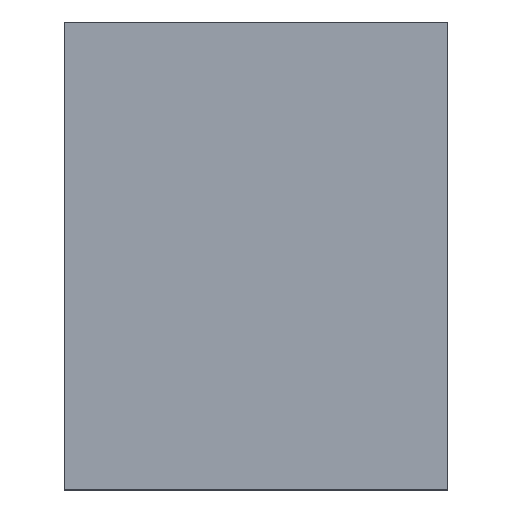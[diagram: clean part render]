
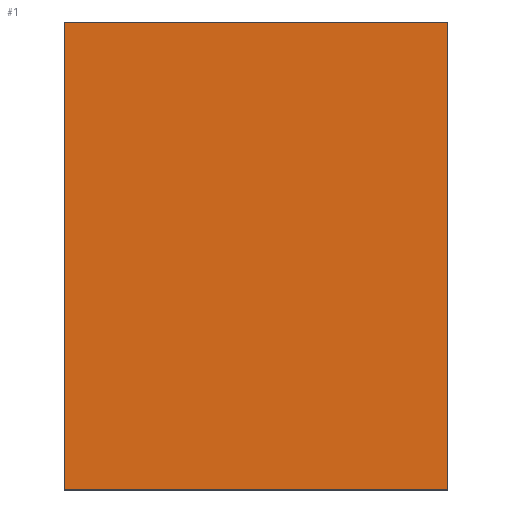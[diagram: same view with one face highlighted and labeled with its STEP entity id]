
A CAD part, left-side view. The second image highlights one B-rep face of the part: STEP entity #1.
In plain terms, the highlighted planar face has unit normal (-1, 0, 0) as drawn and (0, 1, 0) by its records, which use the part's own axes.
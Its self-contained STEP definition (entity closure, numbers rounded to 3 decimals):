
#1 = ADVANCED_FACE ( 'NONE', ( #687 ), #13972, .F. ) ;
#687 = FACE_OUTER_BOUND ( 'NONE', #14381, .T. ) ;
#3258 = EDGE_CURVE ( 'NONE', #7296, #7306, #12347, .T. ) ;
#3345 = EDGE_CURVE ( 'NONE', #7303, #7296, #12618, .T. ) ;
#3347 = EDGE_CURVE ( 'NONE', #7286, #7303, #12624, .T. ) ;
#6401 = AXIS2_PLACEMENT_3D ( 'NONE', #13971, #13970, #13969 ) ;
#6594 = EDGE_CURVE ( 'NONE', #7306, #7286, #9934, .T. ) ;
#6983 = VECTOR ( 'NONE', #12621, 1000. ) ;
#6985 = VECTOR ( 'NONE', #12626, 1000. ) ;
#7089 = VECTOR ( 'NONE', #9936, 1000. ) ;
#7286 = VERTEX_POINT ( 'NONE', #10225 ) ;
#7296 = VERTEX_POINT ( 'NONE', #10235 ) ;
#7303 = VERTEX_POINT ( 'NONE', #10242 ) ;
#7306 = VERTEX_POINT ( 'NONE', #10245 ) ;
#9934 = LINE ( 'NONE', #9935, #7089 ) ;
#9935 = CARTESIAN_POINT ( 'NONE',  ( 424.4, 362.826, -100. ) ) ;
#9936 = DIRECTION ( 'NONE',  ( 0., 0., 1. ) ) ;
#10225 = CARTESIAN_POINT ( 'NONE',  ( 424.4, 362.826, 310. ) ) ;
#10235 = CARTESIAN_POINT ( 'NONE',  ( -75.6, 362.826, -100. ) ) ;
#10242 = CARTESIAN_POINT ( 'NONE',  ( -75.6, 362.826, 310. ) ) ;
#10245 = CARTESIAN_POINT ( 'NONE',  ( 424.4, 362.826, -100. ) ) ;
#12062 = VECTOR ( 'NONE', #12357, 1000. ) ;
#12347 = LINE ( 'NONE', #12355, #12062 ) ;
#12355 = CARTESIAN_POINT ( 'NONE',  ( -75.6, 362.826, -100. ) ) ;
#12357 = DIRECTION ( 'NONE',  ( 1., 0., 0. ) ) ;
#12618 = LINE ( 'NONE', #12620, #6983 ) ;
#12620 = CARTESIAN_POINT ( 'NONE',  ( -75.6, 362.826, 300. ) ) ;
#12621 = DIRECTION ( 'NONE',  ( 0., 0., -1. ) ) ;
#12624 = LINE ( 'NONE', #12625, #6985 ) ;
#12625 = CARTESIAN_POINT ( 'NONE',  ( 324.4, 362.826, 310. ) ) ;
#12626 = DIRECTION ( 'NONE',  ( -1., 0., 0. ) ) ;
#13969 = DIRECTION ( 'NONE',  ( 1., 0., 0. ) ) ;
#13970 = DIRECTION ( 'NONE',  ( 0., -1., 0. ) ) ;
#13971 = CARTESIAN_POINT ( 'NONE',  ( -75.6, 362.826, 300. ) ) ;
#13972 = PLANE ( 'NONE',  #6401 ) ;
#14381 = EDGE_LOOP ( 'NONE', ( #14760, #14761, #14758, #14759 ) ) ;
#14758 = ORIENTED_EDGE ( 'NONE', *, *, #3258, .F. ) ;
#14759 = ORIENTED_EDGE ( 'NONE', *, *, #3345, .F. ) ;
#14760 = ORIENTED_EDGE ( 'NONE', *, *, #3347, .F. ) ;
#14761 = ORIENTED_EDGE ( 'NONE', *, *, #6594, .F. ) ;
